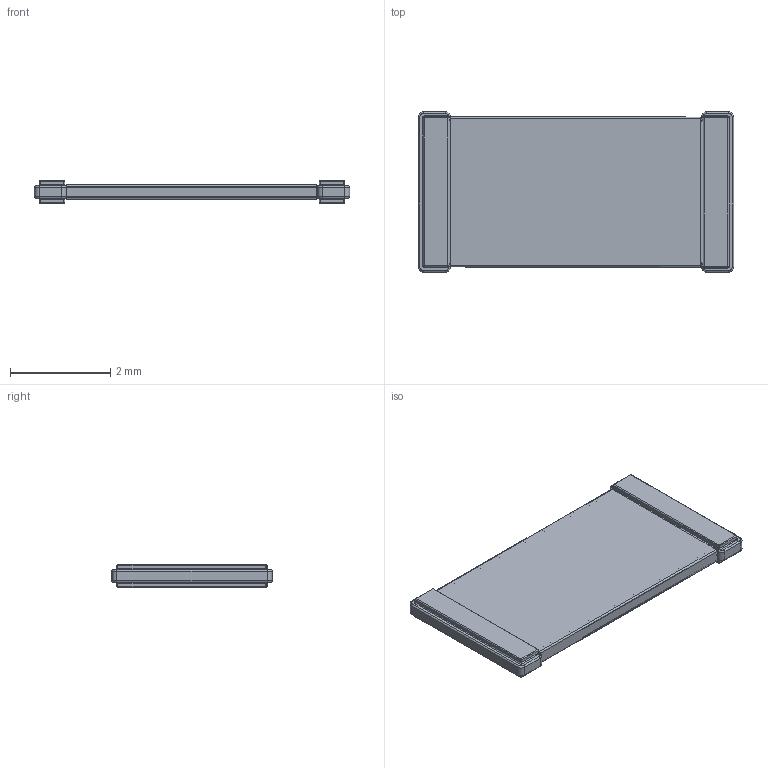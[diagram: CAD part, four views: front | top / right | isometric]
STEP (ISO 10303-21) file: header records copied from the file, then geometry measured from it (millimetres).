
FILE_DESCRIPTION(('STEP AP203'), '1');
FILE_NAME('櫻蠉錪', '', ('UNSPECIFIED'), ('UNSPECIFIED'), 'ASCON STEP Converter 1.6', 'ASCON Math Kernel', '');
FILE_SCHEMA(('CONFIG_CONTROL_DESIGN'));
Length unit declared in the file: millimetre
Bounding box: 6.3 x 3.2 x 0.45 mm (x, y, z)
Surface area: 80.5 mm2 (no closed solid volume)
Topology: 0 solids, 1 shells, 199 faces, 476 edges, 259 vertices
Faces by surface type: cylinder 89, plane 54, torus 38, sphere 16, bspline 2
Entity records: 7502 total; most frequent: CARTESIAN_POINT 1277, DIRECTION 1053, ORIENTED_EDGE 921, EDGE_CURVE 462, AXIS2_PLACEMENT_3D 423, VERTEX_POINT 259, CIRCLE 225, LINE 207
